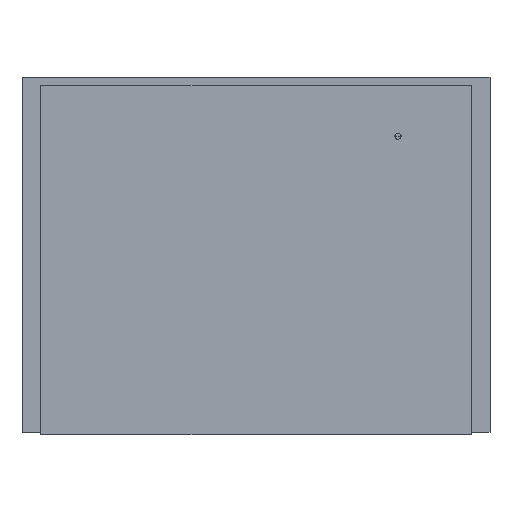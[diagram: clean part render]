
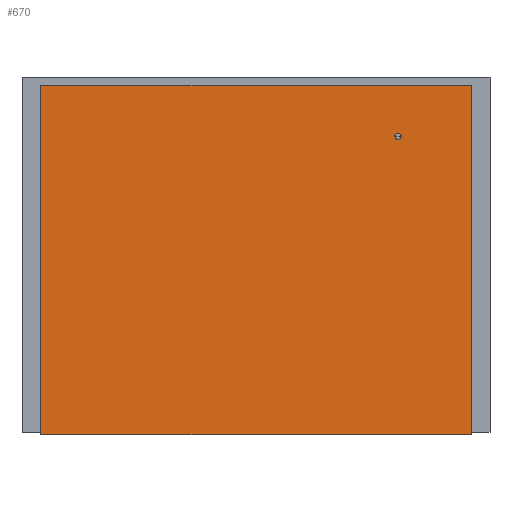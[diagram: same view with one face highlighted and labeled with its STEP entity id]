
A CAD part, left-side view. The second image highlights one B-rep face of the part: STEP entity #670.
In plain terms, the highlighted free-form (B-spline) face has degree [3, 3] with [10, 4] control points.
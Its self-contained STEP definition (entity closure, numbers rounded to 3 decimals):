
#670=ADVANCED_FACE('',(#968),#3562,.T.);
#968=FACE_OUTER_BOUND('',#1267,.T.);
#1267=EDGE_LOOP('',(#1993,#1994,#1995,#1996));
#1993=ORIENTED_EDGE('',*,*,#2840,.T.);
#1994=ORIENTED_EDGE('',*,*,#2841,.F.);
#1995=ORIENTED_EDGE('',*,*,#2813,.F.);
#1996=ORIENTED_EDGE('',*,*,#2842,.F.);
#2813=EDGE_CURVE('',#3291,#3292,#3803,.T.);
#2840=EDGE_CURVE('',#3310,#3311,#3814,.T.);
#2841=EDGE_CURVE('',#3292,#3311,#3815,.T.);
#2842=EDGE_CURVE('',#3310,#3291,#3816,.T.);
#3291=VERTEX_POINT('',#14131);
#3292=VERTEX_POINT('',#14132);
#3310=VERTEX_POINT('',#14150);
#3311=VERTEX_POINT('',#14151);
#3562=B_SPLINE_SURFACE_WITH_KNOTS('',3,3,((#14074,#14075,#14076,#14077),
(#14078,#14079,#14080,#14081),(#14082,#14083,#14084,#14085),(#14086,#14087,
#14088,#14089),(#14090,#14091,#14092,#14093),(#14094,#14095,#14096,#14097),
(#14098,#14099,#14100,#14101),(#14102,#14103,#14104,#14105),(#14106,#14107,
#14108,#14109),(#14110,#14111,#14112,#14113)),.UNSPECIFIED.,.F.,.F.,.F.,
(4,3,3,4),(4,4),(0.,0.333,0.667,0.978),
(0.08,1.),.UNSPECIFIED.);
#3803=B_SPLINE_CURVE_WITH_KNOTS('',1,(#13936,#13937),.UNSPECIFIED.,.F.,.F.,
(2,2),(0.08,1.),.UNSPECIFIED.);
#3814=B_SPLINE_CURVE_WITH_KNOTS('',3,(#13998,#13999,#14000,#14001),.UNSPECIFIED.,
.F.,.F.,(4,4),(23.843,571.345),.UNSPECIFIED.);
#3815=B_SPLINE_CURVE_WITH_KNOTS('',3,(#14002,#14003,#14004,#14005,#14006,
#14007,#14008,#14009,#14010,#14011),.UNSPECIFIED.,.F.,.F.,(4,3,3,4),(0.,
0.333,0.667,0.978),.UNSPECIFIED.);
#3816=B_SPLINE_CURVE_WITH_KNOTS('',3,(#14012,#14013,#14014,#14015),.UNSPECIFIED.,
.F.,.F.,(4,4),(10.136,455.),.UNSPECIFIED.);
#13936=CARTESIAN_POINT('',(-520.488,-273.752,0.199));
#13937=CARTESIAN_POINT('',(-520.488,273.75,0.199));
#13998=CARTESIAN_POINT('',(-520.488,-273.752,445.063));
#13999=CARTESIAN_POINT('',(-520.488,-91.251,445.063));
#14000=CARTESIAN_POINT('',(-520.488,91.25,445.063));
#14001=CARTESIAN_POINT('',(-520.488,273.75,445.063));
#14002=CARTESIAN_POINT('',(-520.488,273.75,0.199));
#14003=CARTESIAN_POINT('',(-520.488,273.75,50.754));
#14004=CARTESIAN_POINT('',(-520.488,273.75,101.31));
#14005=CARTESIAN_POINT('',(-520.488,273.75,151.866));
#14006=CARTESIAN_POINT('',(-520.488,273.75,202.421));
#14007=CARTESIAN_POINT('',(-520.488,273.75,252.977));
#14008=CARTESIAN_POINT('',(-520.488,273.75,303.532));
#14009=CARTESIAN_POINT('',(-520.488,273.75,350.709));
#14010=CARTESIAN_POINT('',(-520.488,273.75,397.886));
#14011=CARTESIAN_POINT('',(-520.488,273.75,445.063));
#14012=CARTESIAN_POINT('',(-520.488,-273.752,445.063));
#14013=CARTESIAN_POINT('',(-520.488,-273.752,296.775));
#14014=CARTESIAN_POINT('',(-520.488,-273.752,148.487));
#14015=CARTESIAN_POINT('',(-520.488,-273.752,0.199));
#14074=CARTESIAN_POINT('',(-520.488,-273.752,0.199));
#14075=CARTESIAN_POINT('',(-520.488,-91.251,0.199));
#14076=CARTESIAN_POINT('',(-520.488,91.25,0.199));
#14077=CARTESIAN_POINT('',(-520.488,273.75,0.199));
#14078=CARTESIAN_POINT('',(-520.488,-273.752,50.754));
#14079=CARTESIAN_POINT('',(-520.488,-91.251,50.754));
#14080=CARTESIAN_POINT('',(-520.488,91.25,50.754));
#14081=CARTESIAN_POINT('',(-520.488,273.75,50.754));
#14082=CARTESIAN_POINT('',(-520.488,-273.752,101.31));
#14083=CARTESIAN_POINT('',(-520.488,-91.251,101.31));
#14084=CARTESIAN_POINT('',(-520.488,91.25,101.31));
#14085=CARTESIAN_POINT('',(-520.488,273.75,101.31));
#14086=CARTESIAN_POINT('',(-520.488,-273.752,151.866));
#14087=CARTESIAN_POINT('',(-520.488,-91.251,151.866));
#14088=CARTESIAN_POINT('',(-520.488,91.25,151.866));
#14089=CARTESIAN_POINT('',(-520.488,273.75,151.866));
#14090=CARTESIAN_POINT('',(-520.488,-273.752,202.421));
#14091=CARTESIAN_POINT('',(-520.488,-91.251,202.421));
#14092=CARTESIAN_POINT('',(-520.488,91.25,202.421));
#14093=CARTESIAN_POINT('',(-520.488,273.75,202.421));
#14094=CARTESIAN_POINT('',(-520.488,-273.752,252.977));
#14095=CARTESIAN_POINT('',(-520.488,-91.251,252.977));
#14096=CARTESIAN_POINT('',(-520.488,91.25,252.977));
#14097=CARTESIAN_POINT('',(-520.488,273.75,252.977));
#14098=CARTESIAN_POINT('',(-520.488,-273.752,303.532));
#14099=CARTESIAN_POINT('',(-520.488,-91.251,303.532));
#14100=CARTESIAN_POINT('',(-520.488,91.25,303.532));
#14101=CARTESIAN_POINT('',(-520.488,273.75,303.532));
#14102=CARTESIAN_POINT('',(-520.488,-273.752,350.709));
#14103=CARTESIAN_POINT('',(-520.488,-91.251,350.709));
#14104=CARTESIAN_POINT('',(-520.488,91.25,350.709));
#14105=CARTESIAN_POINT('',(-520.488,273.75,350.709));
#14106=CARTESIAN_POINT('',(-520.488,-273.752,397.886));
#14107=CARTESIAN_POINT('',(-520.488,-91.251,397.886));
#14108=CARTESIAN_POINT('',(-520.488,91.25,397.886));
#14109=CARTESIAN_POINT('',(-520.488,273.75,397.886));
#14110=CARTESIAN_POINT('',(-520.488,-273.752,445.063));
#14111=CARTESIAN_POINT('',(-520.488,-91.251,445.063));
#14112=CARTESIAN_POINT('',(-520.488,91.25,445.063));
#14113=CARTESIAN_POINT('',(-520.488,273.75,445.063));
#14131=CARTESIAN_POINT('',(-520.488,-273.752,0.199));
#14132=CARTESIAN_POINT('',(-520.488,273.75,0.199));
#14150=CARTESIAN_POINT('',(-520.488,-273.752,445.063));
#14151=CARTESIAN_POINT('',(-520.488,273.75,445.063));
